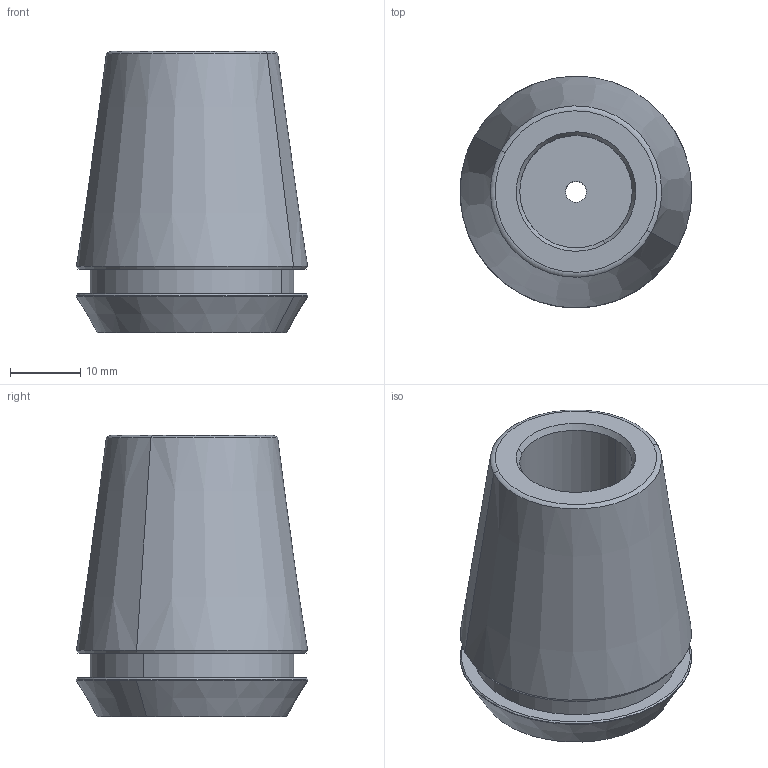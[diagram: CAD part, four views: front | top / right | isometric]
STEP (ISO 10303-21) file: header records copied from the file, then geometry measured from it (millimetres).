
FILE_DESCRIPTION(('CATIA V5 STEP','CAx-IF Rec.Pracs.--- Model Styling and Organization---1.2---2011-12-15'),'2;1');
FILE_NAME('\\nas01\drv1\utils\eitdev\rte\eit\transmagicconvert\db\out\635877716797866362\4590506-D-L-M.stp','2016-01-07T11:54:51+00:00',('none'),('none'),'CATIA Version 5 Release 21 SP 5 (IN-10)','CATIA V5 STEP AP214','none');
FILE_SCHEMA(('AUTOMOTIVE_DESIGN { 1 0 10303 214 1 1 1 1 }'));
Length unit declared in the file: millimetre
Products named in the file (1): ER32 SPR 2-3 AA
Bounding box: 32.99 x 32.99 x 40 mm (x, y, z)
Volume: 22239.6 mm3; surface area: 6274.3 mm2
Topology: 1 solids, 1 shells, 27 faces, 61 edges, 39 vertices
Faces by surface type: cone 12, cylinder 8, plane 5, torus 2
Entity records: 788 total; most frequent: CARTESIAN_POINT 164, ORIENTED_EDGE 122, DIRECTION 111, AXIS2_PLACEMENT_3D 66, EDGE_CURVE 61, CIRCLE 39, VERTEX_POINT 39, EDGE_LOOP 32
